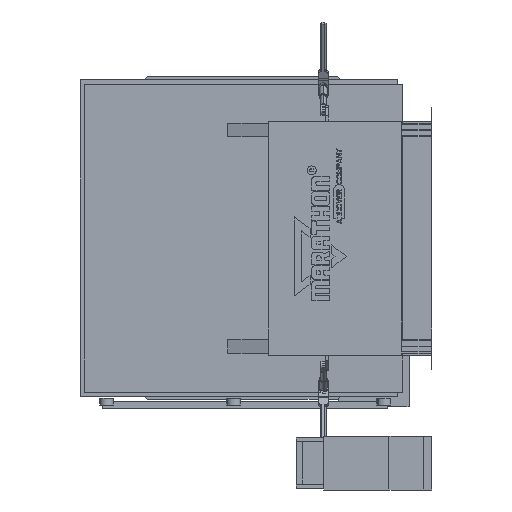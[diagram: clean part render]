
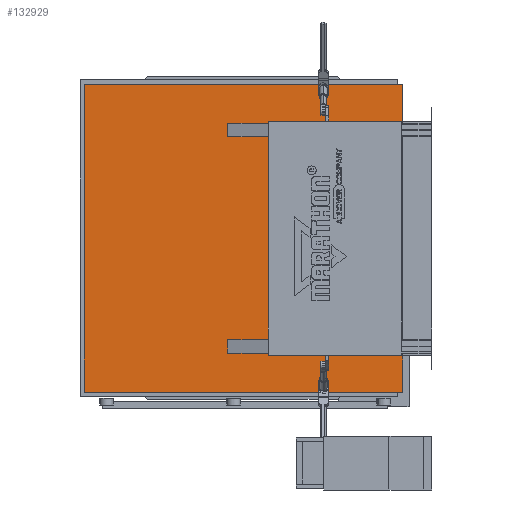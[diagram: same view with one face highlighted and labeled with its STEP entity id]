
A CAD part, left-side view. The second image highlights one B-rep face of the part: STEP entity #132929.
In plain terms, the highlighted planar face has unit normal (-1, 0, 0).
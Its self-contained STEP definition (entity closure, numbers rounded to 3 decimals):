
#132850=DIRECTION('',(0.,0.,1.));
#132851=VECTOR('',#132850,91.);
#132852=CARTESIAN_POINT('',(-131.875,8.558,-45.5));
#132853=LINE('',#132852,#132851);
#132854=DIRECTION('',(0.,-1.,0.));
#132855=VECTOR('',#132854,94.25);
#132856=CARTESIAN_POINT('',(-131.875,102.808,-45.5));
#132857=LINE('',#132856,#132855);
#132858=DIRECTION('',(0.,0.,-1.));
#132859=VECTOR('',#132858,91.);
#132860=CARTESIAN_POINT('',(-131.875,102.808,45.5));
#132861=LINE('',#132860,#132859);
#132862=DIRECTION('',(0.,1.,0.));
#132863=VECTOR('',#132862,94.25);
#132864=CARTESIAN_POINT('',(-131.875,8.558,45.5));
#132865=LINE('',#132864,#132863);
#132898=CARTESIAN_POINT('',(-131.875,8.558,-45.5));
#132899=CARTESIAN_POINT('',(-131.875,8.558,45.5));
#132900=VERTEX_POINT('',#132898);
#132901=VERTEX_POINT('',#132899);
#132902=CARTESIAN_POINT('',(-131.875,102.808,45.5));
#132903=VERTEX_POINT('',#132902);
#132904=CARTESIAN_POINT('',(-131.875,102.808,-45.5));
#132905=VERTEX_POINT('',#132904);
#132914=CARTESIAN_POINT('',(-131.875,0.,-34.565));
#132915=DIRECTION('',(-1.,0.,0.));
#132916=DIRECTION('',(0.,0.,1.));
#132917=AXIS2_PLACEMENT_3D('',#132914,#132915,#132916);
#132918=PLANE('',#132917);
#132920=ORIENTED_EDGE('',*,*,#132919,.F.);
#132922=ORIENTED_EDGE('',*,*,#132921,.F.);
#132924=ORIENTED_EDGE('',*,*,#132923,.F.);
#132926=ORIENTED_EDGE('',*,*,#132925,.F.);
#132927=EDGE_LOOP('',(#132920,#132922,#132924,#132926));
#132928=FACE_OUTER_BOUND('',#132927,.F.);
#132929=ADVANCED_FACE('',(#132928),#132918,.T.);
#132919=EDGE_CURVE('',#132900,#132901,#132853,.T.);
#132921=EDGE_CURVE('',#132905,#132900,#132857,.T.);
#132923=EDGE_CURVE('',#132903,#132905,#132861,.T.);
#132925=EDGE_CURVE('',#132901,#132903,#132865,.T.);
